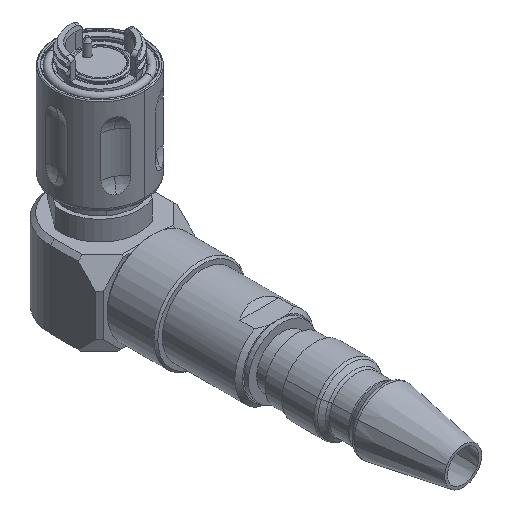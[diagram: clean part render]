
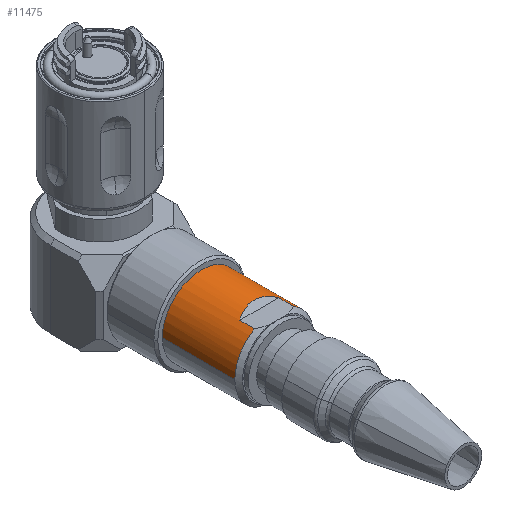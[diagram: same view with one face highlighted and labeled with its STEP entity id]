
A CAD part, isometric view. The second image highlights one B-rep face of the part: STEP entity #11475.
In plain terms, the highlighted cylindrical face has radius 10.095 mm (diameter 20.19 mm), a partial arc.
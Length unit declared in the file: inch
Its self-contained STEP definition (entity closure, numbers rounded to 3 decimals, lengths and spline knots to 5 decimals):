
#18 = CARTESIAN_POINT ( 'NONE',  ( 0., -1.7649, -1.883 ) ) ;
#113 = CIRCLE ( 'NONE', #15829, 0.39745 ) ;
#1205 = LINE ( 'NONE', #2623, #15153 ) ;
#1411 = CARTESIAN_POINT ( 'NONE',  ( 0.19734, -1.7649, -1.538 ) ) ;
#1733 = CIRCLE ( 'NONE', #6286, 0.39745 ) ;
#1954 = VERTEX_POINT ( 'NONE', #14190 ) ;
#2623 = CARTESIAN_POINT ( 'NONE',  ( 0.19734, -0.51827, -1.538 ) ) ;
#2927 = VECTOR ( 'NONE', #3965, 39.37008 ) ;
#2945 = CARTESIAN_POINT ( 'NONE',  ( -0.19734, -1.7649, -1.538 ) ) ;
#3236 = VERTEX_POINT ( 'NONE', #3414 ) ;
#3287 = CARTESIAN_POINT ( 'NONE',  ( -0.07212, -1.5431, -1.46638 ) ) ;
#3291 =( BOUNDED_CURVE ( )  B_SPLINE_CURVE ( 3, ( #13171, #3287, #15742, #5665 ),
 .UNSPECIFIED., .F., .F. ) 
 B_SPLINE_CURVE_WITH_KNOTS ( ( 4, 4 ),
 ( 5.76362, 6.80275 ),
 .UNSPECIFIED. ) 
 CURVE ( )  GEOMETRIC_REPRESENTATION_ITEM ( )  RATIONAL_B_SPLINE_CURVE ( ( 1., 0.912, 0.912, 1. ) ) 
 REPRESENTATION_ITEM ( '' )  );
#3414 = CARTESIAN_POINT ( 'NONE',  ( 0.39745, -1.03008, -1.883 ) ) ;
#3965 = DIRECTION ( 'NONE',  ( 0., 1., 0. ) ) ;
#4013 = VERTEX_POINT ( 'NONE', #5695 ) ;
#4806 = ORIENTED_EDGE ( 'NONE', *, *, #16161, .T. ) ;
#5061 = VERTEX_POINT ( 'NONE', #2945 ) ;
#5478 = ORIENTED_EDGE ( 'NONE', *, *, #12966, .T. ) ;
#5646 = CARTESIAN_POINT ( 'NONE',  ( 0., -0.51827, -1.883 ) ) ;
#5665 = CARTESIAN_POINT ( 'NONE',  ( 0.19734, -1.61472, -1.538 ) ) ;
#5695 = CARTESIAN_POINT ( 'NONE',  ( 0.19734, -1.61472, -1.538 ) ) ;
#6269 = DIRECTION ( 'NONE',  ( 0., 1., 0. ) ) ;
#6286 = AXIS2_PLACEMENT_3D ( 'NONE', #12501, #8521, #16004 ) ;
#6299 = VERTEX_POINT ( 'NONE', #13479 ) ;
#6326 = LINE ( 'NONE', #13879, #2927 ) ;
#6481 = EDGE_CURVE ( 'NONE', #4013, #14028, #1205, .T. ) ;
#6504 = EDGE_CURVE ( 'NONE', #9851, #6299, #6326, .T. ) ;
#7074 = DIRECTION ( 'NONE',  ( 0., 1., 0. ) ) ;
#7805 = EDGE_CURVE ( 'NONE', #1954, #4013, #3291, .T. ) ;
#7915 = ORIENTED_EDGE ( 'NONE', *, *, #7805, .T. ) ;
#8177 = AXIS2_PLACEMENT_3D ( 'NONE', #10955, #13501, #14746 ) ;
#8521 = DIRECTION ( 'NONE',  ( 0., 1., 0. ) ) ;
#8671 = VECTOR ( 'NONE', #13817, 39.37008 ) ;
#9758 = CIRCLE ( 'NONE', #8177, 0.39745 ) ;
#9851 = VERTEX_POINT ( 'NONE', #13579 ) ;
#10023 = LINE ( 'NONE', #12191, #8671 ) ;
#10161 = ORIENTED_EDGE ( 'NONE', *, *, #6481, .T. ) ;
#10835 = CYLINDRICAL_SURFACE ( 'NONE', #13405, 0.39745 ) ;
#10955 = CARTESIAN_POINT ( 'NONE',  ( 0., -1.03008, -1.883 ) ) ;
#11116 = CARTESIAN_POINT ( 'NONE',  ( 0.39745, -0.51827, -1.883 ) ) ;
#11475 = ADVANCED_FACE ( 'NONE', ( #11989 ), #10835, .T. ) ;
#11989 = FACE_OUTER_BOUND ( 'NONE', #15061, .T. ) ;
#12028 = CARTESIAN_POINT ( 'NONE',  ( 0.39745, -1.7649, -1.883 ) ) ;
#12191 = CARTESIAN_POINT ( 'NONE',  ( -0.19734, -0.51827, -1.538 ) ) ;
#12501 = CARTESIAN_POINT ( 'NONE',  ( 0., -1.7649, -1.883 ) ) ;
#12777 = VERTEX_POINT ( 'NONE', #12028 ) ;
#12812 = DIRECTION ( 'NONE',  ( 0., -1., 0. ) ) ;
#12877 = DIRECTION ( 'NONE',  ( 1., 0., 0. ) ) ;
#12966 = EDGE_CURVE ( 'NONE', #14028, #12777, #113, .T. ) ;
#13171 = CARTESIAN_POINT ( 'NONE',  ( -0.19734, -1.61472, -1.538 ) ) ;
#13377 = DIRECTION ( 'NONE',  ( 1., 0., 0. ) ) ;
#13405 = AXIS2_PLACEMENT_3D ( 'NONE', #5646, #7074, #13377 ) ;
#13479 = CARTESIAN_POINT ( 'NONE',  ( -0.39745, -1.03008, -1.883 ) ) ;
#13501 = DIRECTION ( 'NONE',  ( 0., 1., 0. ) ) ;
#13579 = CARTESIAN_POINT ( 'NONE',  ( -0.39745, -1.7649, -1.883 ) ) ;
#13817 = DIRECTION ( 'NONE',  ( 0., 1., 0. ) ) ;
#13879 = CARTESIAN_POINT ( 'NONE',  ( -0.39745, -0.51827, -1.883 ) ) ;
#13889 = EDGE_CURVE ( 'NONE', #12777, #3236, #13912, .T. ) ;
#13912 = LINE ( 'NONE', #11116, #15310 ) ;
#14028 = VERTEX_POINT ( 'NONE', #1411 ) ;
#14190 = CARTESIAN_POINT ( 'NONE',  ( -0.19734, -1.61472, -1.538 ) ) ;
#14205 = ORIENTED_EDGE ( 'NONE', *, *, #6504, .F. ) ;
#14746 = DIRECTION ( 'NONE',  ( 1., 0., 0. ) ) ;
#15061 = EDGE_LOOP ( 'NONE', ( #14205, #15128, #4806, #7915, #10161, #5478, #15621, #16189 ) ) ;
#15128 = ORIENTED_EDGE ( 'NONE', *, *, #16203, .T. ) ;
#15153 = VECTOR ( 'NONE', #12812, 39.37008 ) ;
#15310 = VECTOR ( 'NONE', #6269, 39.37008 ) ;
#15364 = DIRECTION ( 'NONE',  ( 0., 1., 0. ) ) ;
#15621 = ORIENTED_EDGE ( 'NONE', *, *, #13889, .T. ) ;
#15742 = CARTESIAN_POINT ( 'NONE',  ( 0.07212, -1.5431, -1.46638 ) ) ;
#15829 = AXIS2_PLACEMENT_3D ( 'NONE', #18, #15364, #12877 ) ;
#16004 = DIRECTION ( 'NONE',  ( 1., 0., 0. ) ) ;
#16125 = EDGE_CURVE ( 'NONE', #6299, #3236, #9758, .T. ) ;
#16161 = EDGE_CURVE ( 'NONE', #5061, #1954, #10023, .T. ) ;
#16189 = ORIENTED_EDGE ( 'NONE', *, *, #16125, .F. ) ;
#16203 = EDGE_CURVE ( 'NONE', #9851, #5061, #1733, .T. ) ;
